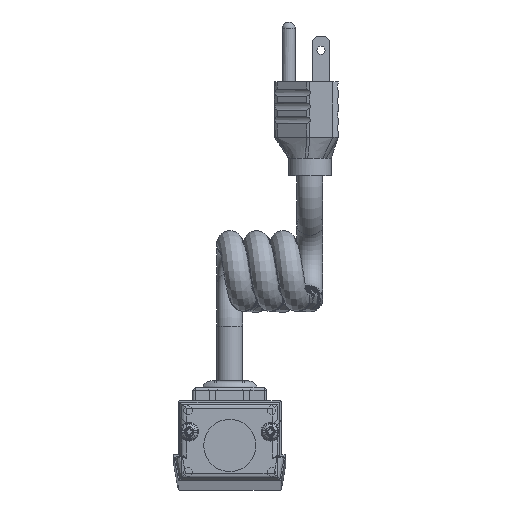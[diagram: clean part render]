
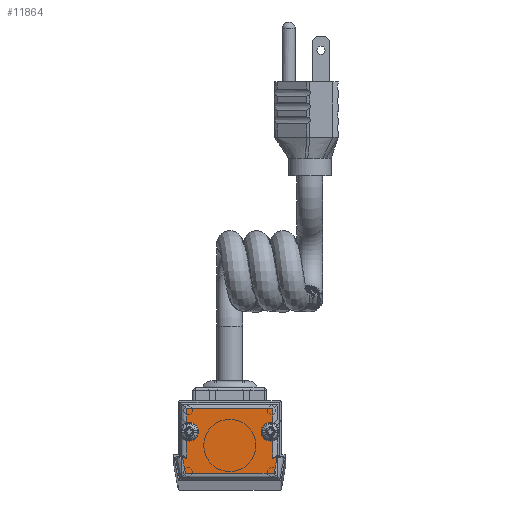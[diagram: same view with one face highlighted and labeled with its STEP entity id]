
A CAD part, top view. The second image highlights one B-rep face of the part: STEP entity #11864.
In plain terms, the highlighted planar face has unit normal (0, 0, 1).
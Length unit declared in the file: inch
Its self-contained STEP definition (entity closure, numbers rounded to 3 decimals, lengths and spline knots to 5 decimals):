
#903=CIRCLE('',#12872,1.5875);
#905=CIRCLE('',#12875,1.5875);
#906=CIRCLE('',#12876,1.5875);
#1494=FACE_OUTER_BOUND('',#2174,.T.);
#2174=EDGE_LOOP('',(#8592,#8593,#8594,#8595,#8596,#8597,#8598,#8599,#8600,
#8601,#8602,#8603,#8604));
#3035=LINE('',#17499,#4121);
#3036=LINE('',#17501,#4122);
#3037=LINE('',#17503,#4123);
#3038=LINE('',#17505,#4124);
#3039=LINE('',#17507,#4125);
#3040=LINE('',#17509,#4126);
#3041=LINE('',#17510,#4127);
#3042=LINE('',#17512,#4128);
#3043=LINE('',#17514,#4129);
#3044=LINE('',#17515,#4130);
#4121=VECTOR('',#14374,10.);
#4122=VECTOR('',#14375,10.);
#4123=VECTOR('',#14376,10.);
#4124=VECTOR('',#14377,10.);
#4125=VECTOR('',#14378,10.);
#4126=VECTOR('',#14379,10.);
#4127=VECTOR('',#14380,10.);
#4128=VECTOR('',#14381,10.);
#4129=VECTOR('',#14382,10.);
#4130=VECTOR('',#14383,10.);
#5175=VERTEX_POINT('',#17455);
#5176=VERTEX_POINT('',#17464);
#5178=VERTEX_POINT('',#17477);
#5179=VERTEX_POINT('',#17479);
#5180=VERTEX_POINT('',#17481);
#5181=VERTEX_POINT('',#17498);
#5182=VERTEX_POINT('',#17500);
#5183=VERTEX_POINT('',#17502);
#5184=VERTEX_POINT('',#17504);
#5185=VERTEX_POINT('',#17506);
#5186=VERTEX_POINT('',#17508);
#5187=VERTEX_POINT('',#17511);
#5188=VERTEX_POINT('',#17513);
#6463=EDGE_CURVE('',#5176,#5175,#903,.T.);
#6467=EDGE_CURVE('',#5179,#5178,#905,.T.);
#6469=EDGE_CURVE('',#5178,#5180,#906,.T.);
#6470=EDGE_CURVE('',#5181,#5175,#3035,.T.);
#6471=EDGE_CURVE('',#5182,#5181,#3036,.T.);
#6472=EDGE_CURVE('',#5183,#5182,#3037,.T.);
#6473=EDGE_CURVE('',#5184,#5183,#3038,.T.);
#6474=EDGE_CURVE('',#5185,#5184,#3039,.T.);
#6475=EDGE_CURVE('',#5186,#5185,#3040,.T.);
#6476=EDGE_CURVE('',#5179,#5186,#3041,.T.);
#6477=EDGE_CURVE('',#5187,#5180,#3042,.T.);
#6478=EDGE_CURVE('',#5188,#5187,#3043,.T.);
#6479=EDGE_CURVE('',#5176,#5188,#3044,.T.);
#8592=ORIENTED_EDGE('',*,*,#6463,.T.);
#8593=ORIENTED_EDGE('',*,*,#6470,.F.);
#8594=ORIENTED_EDGE('',*,*,#6471,.F.);
#8595=ORIENTED_EDGE('',*,*,#6472,.F.);
#8596=ORIENTED_EDGE('',*,*,#6473,.F.);
#8597=ORIENTED_EDGE('',*,*,#6474,.F.);
#8598=ORIENTED_EDGE('',*,*,#6475,.F.);
#8599=ORIENTED_EDGE('',*,*,#6476,.F.);
#8600=ORIENTED_EDGE('',*,*,#6467,.T.);
#8601=ORIENTED_EDGE('',*,*,#6469,.T.);
#8602=ORIENTED_EDGE('',*,*,#6477,.F.);
#8603=ORIENTED_EDGE('',*,*,#6478,.F.);
#8604=ORIENTED_EDGE('',*,*,#6479,.F.);
#11476=PLANE('',#12877);
#11864=ADVANCED_FACE('',(#1494),#11476,.T.);
#12872=AXIS2_PLACEMENT_3D('',#17465,#14361,#14362);
#12875=AXIS2_PLACEMENT_3D('',#17480,#14368,#14369);
#12876=AXIS2_PLACEMENT_3D('',#17496,#14370,#14371);
#12877=AXIS2_PLACEMENT_3D('',#17497,#14372,#14373);
#14361=DIRECTION('center_axis',(0.,0.,-1.));
#14362=DIRECTION('ref_axis',(1.,0.,0.));
#14368=DIRECTION('center_axis',(0.,0.,-1.));
#14369=DIRECTION('ref_axis',(1.,0.,0.));
#14370=DIRECTION('center_axis',(0.,0.,-1.));
#14371=DIRECTION('ref_axis',(1.,0.,0.));
#14372=DIRECTION('center_axis',(0.,0.,1.));
#14373=DIRECTION('ref_axis',(1.,0.,0.));
#14374=DIRECTION('',(0.,1.,0.));
#14375=DIRECTION('',(0.996,-0.087,0.));
#14376=DIRECTION('',(-0.191,0.982,0.));
#14377=DIRECTION('',(-1.,0.,0.));
#14378=DIRECTION('',(-0.191,-0.982,0.));
#14379=DIRECTION('',(0.996,0.087,0.));
#14380=DIRECTION('',(0.,-1.,0.));
#14381=DIRECTION('',(0.,-1.,0.));
#14382=DIRECTION('',(1.,0.,0.));
#14383=DIRECTION('',(0.,1.,0.));
#17455=CARTESIAN_POINT('',(-15.7226,16.40547,2.54));
#17464=CARTESIAN_POINT('',(-15.7226,19.05293,2.54));
#17465=CARTESIAN_POINT('Origin',(-14.8463,17.7292,2.54));
#17477=CARTESIAN_POINT('',(13.2588,17.7292,2.54));
#17479=CARTESIAN_POINT('',(15.7226,16.40547,2.54));
#17480=CARTESIAN_POINT('Origin',(14.8463,17.7292,2.54));
#17481=CARTESIAN_POINT('',(15.7226,19.05293,2.54));
#17496=CARTESIAN_POINT('Origin',(14.8463,17.7292,2.54));
#17497=CARTESIAN_POINT('Origin',(0.,14.10876,
2.54));
#17498=CARTESIAN_POINT('',(-15.7226,8.06566,2.54));
#17499=CARTESIAN_POINT('',(-15.7226,11.38955,2.54));
#17500=CARTESIAN_POINT('',(-17.26917,8.20097,2.54));
#17501=CARTESIAN_POINT('',(-10.32721,7.59363,2.54));
#17502=CARTESIAN_POINT('',(-16.16879,2.54,2.54));
#17503=CARTESIAN_POINT('',(-16.75812,5.57187,2.54));
#17504=CARTESIAN_POINT('',(16.16879,2.54,2.54));
#17505=CARTESIAN_POINT('',(9.1313,2.54,2.54));
#17506=CARTESIAN_POINT('',(17.26917,8.20097,2.54));
#17507=CARTESIAN_POINT('',(17.61537,9.98204,2.54));
#17508=CARTESIAN_POINT('',(15.7226,8.06566,2.54));
#17509=CARTESIAN_POINT('',(9.46996,7.51863,2.54));
#17510=CARTESIAN_POINT('',(15.7226,21.34188,2.54));
#17511=CARTESIAN_POINT('',(15.7226,26.035,2.54));
#17512=CARTESIAN_POINT('',(15.7226,21.34188,2.54));
#17513=CARTESIAN_POINT('',(-15.7226,26.035,2.54));
#17514=CARTESIAN_POINT('',(-9.1313,26.035,2.54));
#17515=CARTESIAN_POINT('',(-15.7226,11.38955,2.54));
